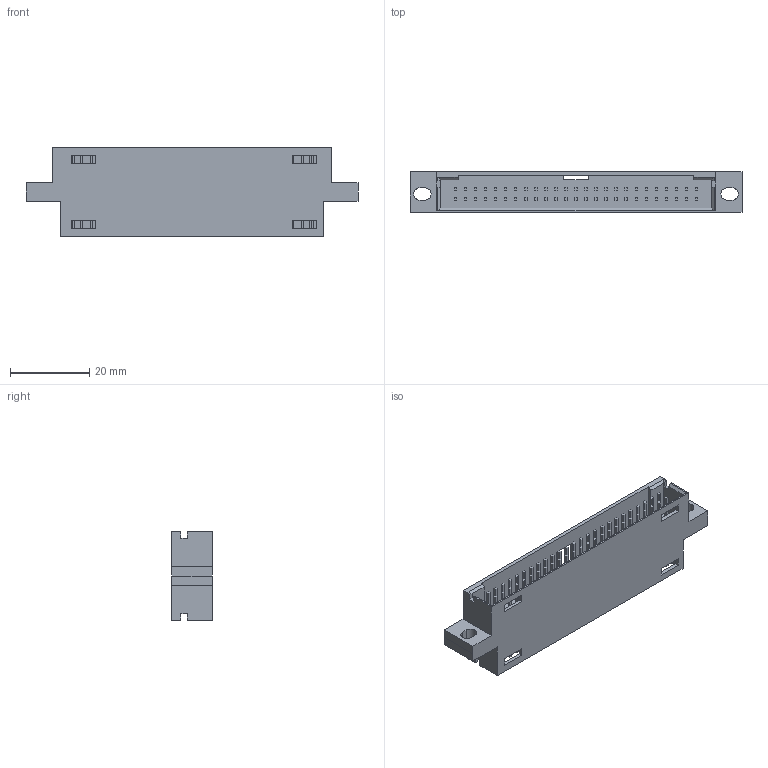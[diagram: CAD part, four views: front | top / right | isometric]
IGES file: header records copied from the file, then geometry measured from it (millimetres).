
Start section:  PTC IGES file: c-87496-1-f-3d.igs
Global section: file name: c-87496-1-f-3d.igs; native system: Pro/ENGINEER by Parametric Technology Corporation; preprocessor: 2005450; author: workeradm; organization: Unknown; date: 080219.100116; units: millimetre
Bounding box: 83.92 x 10.16 x 22.35 mm (x, y, z)
Surface area: 9981.3 mm2 (no closed solid volume)
Topology: 0 solids, 0 shells, 591 faces, 2936 edges, 2936 vertices
Faces by surface type: bspline 587, revolution 4
